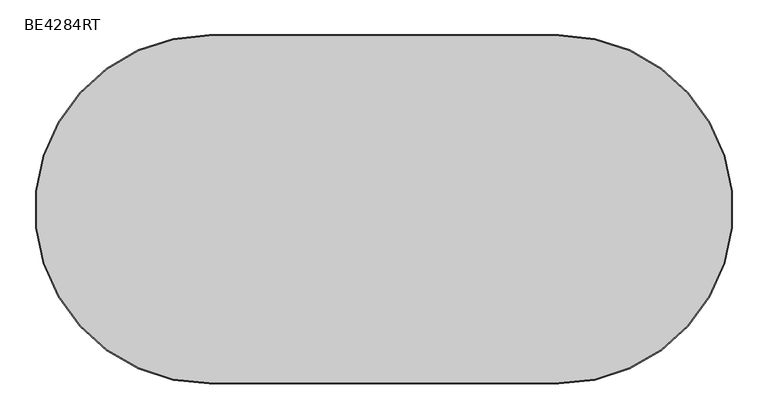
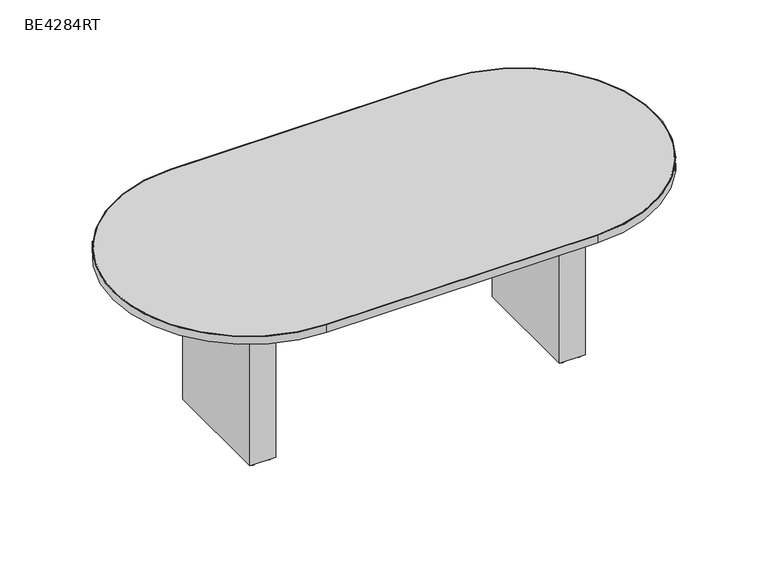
"""IFC4 building model written with IfcOpenShell, lengths in millimetres: furniture geometry, ERG-Beta-Conference_Table-Racetrack : BE4284RT."""

from ifc_helpers import new_model, si_unit, point, frame, frame_2d, origin, origin_with_axes, place, context, project, spatial, polyline, circle_curve, trimmed, segment, composite_curve, outline, extrude, source, transform, mapped, element, save


def be4284rt_ff4269db(model_context):
    return source(origin(), model_context, "Body", "SweptSolid", [
        extrude(outline(composite_curve([segment(trimmed(circle_curve(frame_2d((1120.775, 263.276527)), 9.525), [point((1111.25, 263.276527))], [point((1130.3, 263.276527))], False, "CARTESIAN"), True, "CONTINUOUS"), segment(trimmed(circle_curve(frame_2d((1120.775, 263.276527)), 9.525), [point((1130.3, 263.276527))], [point((1111.25, 263.276527))], False, "CARTESIAN"), True, "CONTINUOUS")], self_intersect=False)), origin_with_axes(), (0.0, 0.0, 1.0), 9.525),
        extrude(outline(composite_curve([segment(trimmed(circle_curve(frame_2d((1184.275, 263.276527)), 9.525), [point((1174.75, 263.276527))], [point((1193.8, 263.276527))], False, "CARTESIAN"), True, "CONTINUOUS"), segment(trimmed(circle_curve(frame_2d((1184.275, 263.276527)), 9.525), [point((1193.8, 263.276527))], [point((1174.75, 263.276527))], False, "CARTESIAN"), True, "CONTINUOUS")], self_intersect=False)), origin_with_axes(), (0.0, 0.0, 1.0), 9.525),
        extrude(outline(composite_curve([segment(trimmed(circle_curve(frame_2d((1120.775, -155.823473)), 9.525), [point((1111.25, -155.823473))], [point((1130.3, -155.823473))], False, "CARTESIAN"), True, "CONTINUOUS"), segment(trimmed(circle_curve(frame_2d((1120.775, -155.823473)), 9.525), [point((1130.3, -155.823473))], [point((1111.25, -155.823473))], False, "CARTESIAN"), True, "CONTINUOUS")], self_intersect=False)), origin_with_axes(), (0.0, 0.0, 1.0), 9.525),
        extrude(outline(composite_curve([segment(trimmed(circle_curve(frame_2d((1184.275, -155.823473)), 9.525), [point((1174.75, -155.823473))], [point((1193.8, -155.823473))], False, "CARTESIAN"), True, "CONTINUOUS"), segment(trimmed(circle_curve(frame_2d((1184.275, -155.823473)), 9.525), [point((1193.8, -155.823473))], [point((1174.75, -155.823473))], False, "CARTESIAN"), True, "CONTINUOUS")], self_intersect=False)), origin_with_axes(), (0.0, 0.0, 1.0), 9.525),
        extrude(outline(polyline([(1203.325, 282.326527), (1203.325, -174.873473), (1101.725, -174.873473), (1101.725, 282.326527), (1203.325, 282.326527)])), frame((0.0, 0.0, 9.525), z_axis=(0.0, 0.0, 1.0), x_axis=(1.0, 0.0, 0.0)), (0.0, 0.0, 1.0), 695.3249758),
        extrude(outline(composite_curve([segment(trimmed(circle_curve(frame_2d((-98.425, 263.276527)), 9.525), [point((-107.95, 263.276527))], [point((-88.9, 263.276527))], False, "CARTESIAN"), True, "CONTINUOUS"), segment(trimmed(circle_curve(frame_2d((-98.425, 263.276527)), 9.525), [point((-88.9, 263.276527))], [point((-107.95, 263.276527))], False, "CARTESIAN"), True, "CONTINUOUS")], self_intersect=False)), origin_with_axes(), (0.0, 0.0, 1.0), 9.525),
        extrude(outline(composite_curve([segment(trimmed(circle_curve(frame_2d((-34.925, 263.276527)), 9.525), [point((-44.45, 263.276527))], [point((-25.4, 263.276527))], False, "CARTESIAN"), True, "CONTINUOUS"), segment(trimmed(circle_curve(frame_2d((-34.925, 263.276527)), 9.525), [point((-25.4, 263.276527))], [point((-44.45, 263.276527))], False, "CARTESIAN"), True, "CONTINUOUS")], self_intersect=False)), origin_with_axes(), (0.0, 0.0, 1.0), 9.525),
        extrude(outline(composite_curve([segment(trimmed(circle_curve(frame_2d((-98.425, -155.823473)), 9.525), [point((-107.95, -155.823473))], [point((-88.9, -155.823473))], False, "CARTESIAN"), True, "CONTINUOUS"), segment(trimmed(circle_curve(frame_2d((-98.425, -155.823473)), 9.525), [point((-88.9, -155.823473))], [point((-107.95, -155.823473))], False, "CARTESIAN"), True, "CONTINUOUS")], self_intersect=False)), origin_with_axes(), (0.0, 0.0, 1.0), 9.525),
        extrude(outline(composite_curve([segment(trimmed(circle_curve(frame_2d((-34.925, -155.823473)), 9.525), [point((-44.45, -155.823473))], [point((-25.4, -155.823473))], False, "CARTESIAN"), True, "CONTINUOUS"), segment(trimmed(circle_curve(frame_2d((-34.925, -155.823473)), 9.525), [point((-25.4, -155.823473))], [point((-44.45, -155.823473))], False, "CARTESIAN"), True, "CONTINUOUS")], self_intersect=False)), origin_with_axes(), (0.0, 0.0, 1.0), 9.525),
        extrude(outline(polyline([(-15.875, 282.326527), (-15.875, -174.873473), (-117.475, -174.873473), (-117.475, 282.326527), (-15.875, 282.326527)])), frame((0.0, 0.0, 9.525), z_axis=(0.0, 0.0, 1.0), x_axis=(1.0, 0.0, 0.0)), (0.0, 0.0, 1.0), 695.3249758),
        extrude(outline(composite_curve([segment(polyline([(1076.325, -476.498473), (9.525, -476.498473)]), True, "CONTINUOUS"), segment(trimmed(circle_curve(frame_2d((9.525, 53.726527)), 530.225), [point((9.525, -476.498473))], [point((9.525, 583.951527))], False, "CARTESIAN"), True, "CONTINUOUS"), segment(polyline([(9.525, 583.951527), (1076.325, 583.951527)]), True, "CONTINUOUS"), segment(trimmed(circle_curve(frame_2d((1076.325, 53.726527)), 530.225), [point((1076.325, 583.951527))], [point((1076.325, -476.498473))], False, "CARTESIAN"), True, "CONTINUOUS")], self_intersect=False)), frame((0.0, 0.0, 704.85), z_axis=(0.0, 0.0, 1.0), x_axis=(1.0, 0.0, 0.0)), (0.0, 0.0, 1.0), 31.75),
        extrude(outline(composite_curve([segment(polyline([(9.525, 587.126527), (1076.325, 587.126527)]), True, "CONTINUOUS"), segment(trimmed(circle_curve(frame_2d((1076.325, 53.726527)), 533.4), [point((1076.325, 587.126527))], [point((1076.325, -479.673473))], False, "CARTESIAN"), True, "CONTINUOUS"), segment(polyline([(1076.325, -479.673473), (9.525, -479.673473)]), True, "CONTINUOUS"), segment(trimmed(circle_curve(frame_2d((9.525, 53.726527)), 533.4), [point((9.525, -479.673473))], [point((9.525, 587.126527))], False, "CARTESIAN"), True, "CONTINUOUS")], self_intersect=False), holes=[composite_curve([segment(trimmed(circle_curve(frame_2d((9.525, 53.726527)), 530.225), [point((9.525, 583.951527))], [point((9.525, -476.498473))], True, "CARTESIAN"), True, "CONTINUOUS"), segment(polyline([(9.525, -476.498473), (1076.325, -476.498473)]), True, "CONTINUOUS"), segment(trimmed(circle_curve(frame_2d((1076.325, 53.726527)), 530.225), [point((1076.325, -476.498473))], [point((1076.325, 583.951527))], True, "CARTESIAN"), True, "CONTINUOUS"), segment(polyline([(1076.325, 583.951527), (9.525, 583.951527)]), True, "CONTINUOUS")], self_intersect=False)]), frame((0.0, 0.0, 704.85), z_axis=(0.0, 0.0, 1.0), x_axis=(1.0, 0.0, 0.0)), (0.0, 0.0, 1.0), 31.75),
    ])


if __name__ == "__main__":
    model = new_model("IFC4")
    model_context = context("Model", 3, world=origin())
    ifc_project = project(units=[si_unit("LENGTHUNIT", "METRE", prefix="MILLI")], contexts=[model_context])
    site = spatial("IfcSite", under=ifc_project)
    building = spatial("IfcBuilding", under=site)
    placement = place(None, origin())
    be4284rt_shape = be4284rt_ff4269db(model_context)
    element("IfcFurniture", 1, ObjectType="ERG-Beta-Conference_Table-Racetrack : BE4284RT", at=placement, inside=building, context=model_context, shape_type="MappedRepresentation", body=[
        mapped(be4284rt_shape, transform((0.0, 0.0, 0.0), x_axis=(1.0, 0.0, 0.0), y_axis=(0.0, 1.0, 0.0), z_axis=(0.0, 0.0, 1.0))),
    ])
    save(model, "model.ifc")
